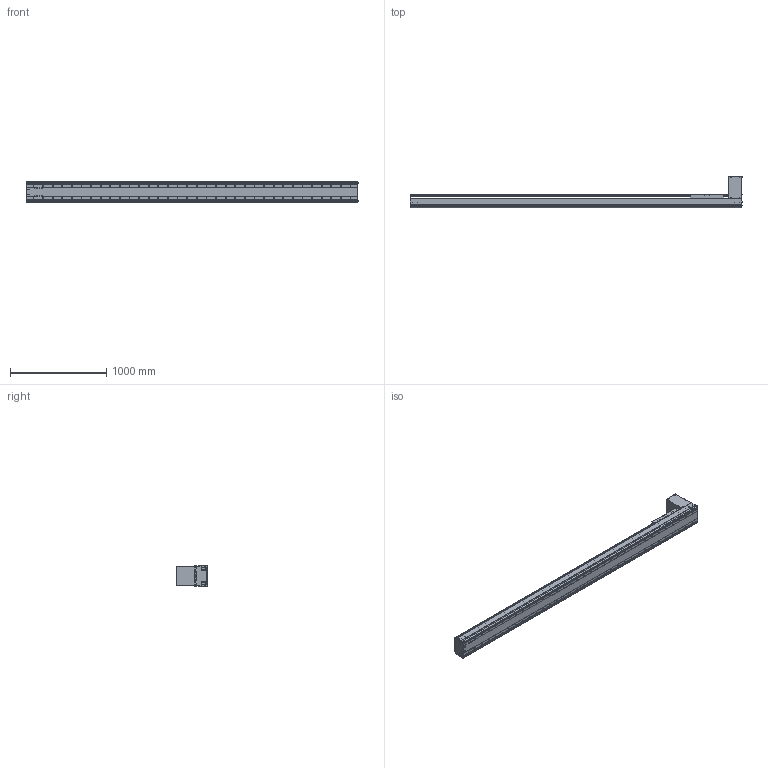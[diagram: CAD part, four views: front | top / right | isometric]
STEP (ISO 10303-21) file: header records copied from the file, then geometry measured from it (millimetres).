
FILE_DESCRIPTION((''),'2;1');
FILE_NAME('BE60J-BT-L19N-U5_IGS_PRT','2017-06-18T',(' '),(''),'PRO/ENGINEER BY PARAMETRIC TECHNOLOGY CORPORATION, 2015030','PRO/ENGINEER BY PARAMETRIC TECHNOLOGY CORPORATION, 2015030','');
FILE_SCHEMA(('CONFIG_CONTROL_DESIGN'));
Products named in the file (1): BE60J-BT-L19N-U5_IGS_PRT
Bounding box: 3454.4 x 327.5 x 214 mm (x, y, z)
Volume: 26439710.6 mm3; surface area: 7300735.1 mm2
Topology: 2 solids, 401 shells, 2702 faces, 7734 edges, 5206 vertices
Faces by surface type: cylinder 1380, plane 906, cone 320, sphere 48, torus 48
Entity records: 91073 total; most frequent: CARTESIAN_POINT 21498, DIRECTION 14457, ORIENTED_EDGE 13580, EDGE_CURVE 7468, AXIS2_PLACEMENT_3D 5559, VERTEX_POINT 5170, VECTOR 3339, LINE 3339
